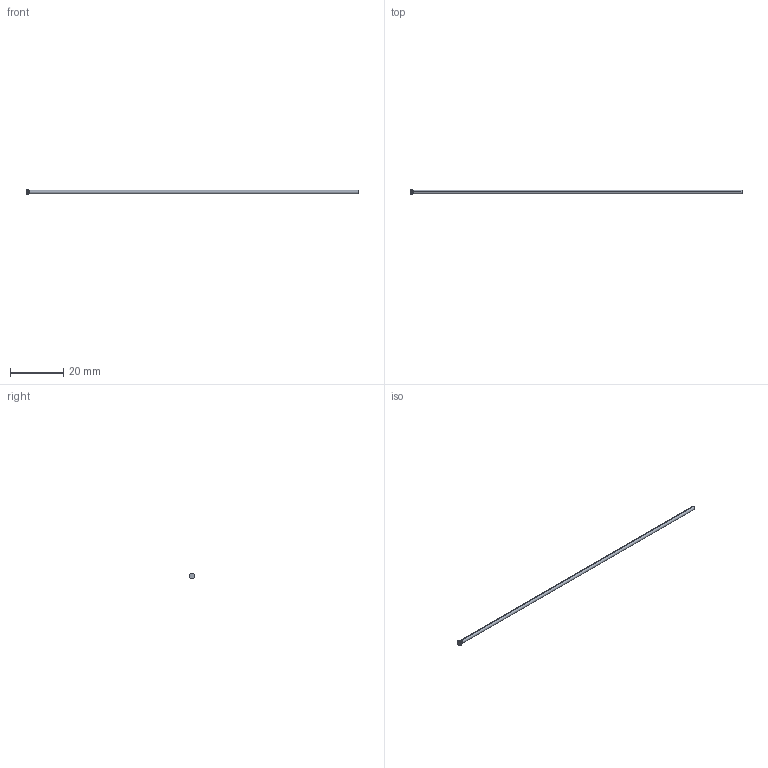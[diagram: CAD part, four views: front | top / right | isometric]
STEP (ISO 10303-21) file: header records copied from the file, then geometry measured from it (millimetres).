
FILE_DESCRIPTION (( 'STEP AP214' ), '1' );
FILE_NAME ('D-1,25x125.STEP', '2020-06-08T09:45:31', ( 'August' ), ( '' ), 'SwSTEP 2.0', 'SolidWorks 2018', '' );
FILE_SCHEMA (( 'AUTOMOTIVE_DESIGN' ));
Length unit declared in the file: millimetre
Products named in the file (1): D-1,25x125
Bounding box: 125 x 2 x 2 mm (x, y, z)
Volume: 155 mm3; surface area: 497.7 mm2
Topology: 1 solids, 1 shells, 10 faces, 18 edges, 10 vertices
Faces by surface type: cylinder 4, torus 2, cone 2, plane 2
Entity records: 280 total; most frequent: DIRECTION 52, CARTESIAN_POINT 39, ORIENTED_EDGE 36, AXIS2_PLACEMENT_3D 23, EDGE_CURVE 18, CIRCLE 12, FACE_OUTER_BOUND 10, VERTEX_POINT 10
